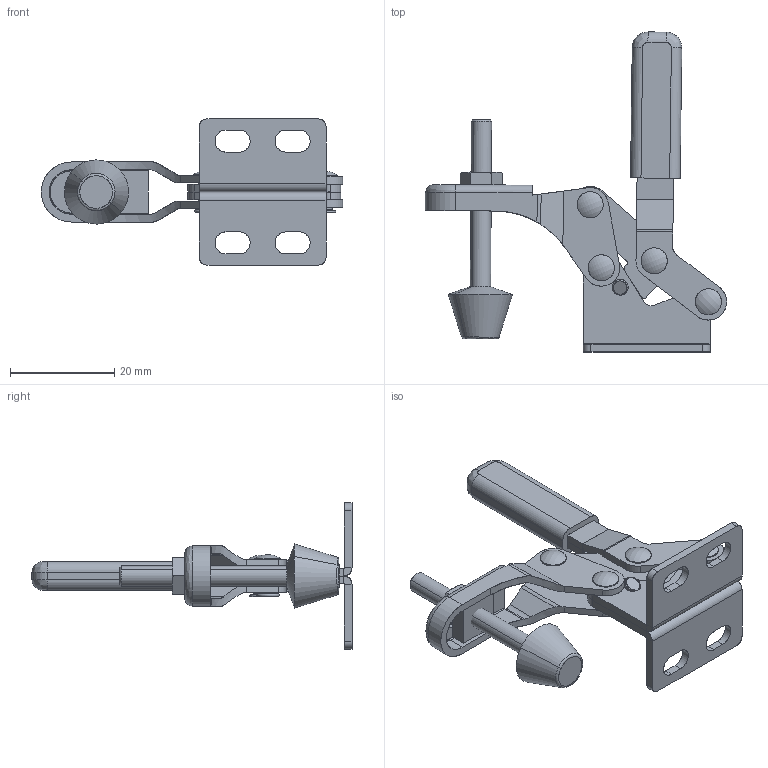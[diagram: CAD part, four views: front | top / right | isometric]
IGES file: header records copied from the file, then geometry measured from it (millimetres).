
Start section: SolidWorks IGES file using analytic representation for surfaces
Global section: file name: \\BARTOP_SV6\share\SOLIDWORKS\工具事業部\坂入用\Toggle clamp\ISK-090\ISK-090.IGS; native system: SolidWorks 2015; preprocessor: SolidWorks 2015; author: SOLID02; date: 150707.204604; units: millimetre
Bounding box: 57.73 x 61.32 x 28 mm (x, y, z)
Surface area: 10411 mm2 (no closed solid volume)
Topology: 0 solids, 0 shells, 363 faces, 4880 edges, 4879 vertices
Faces by surface type: bspline 183, revolution 180
